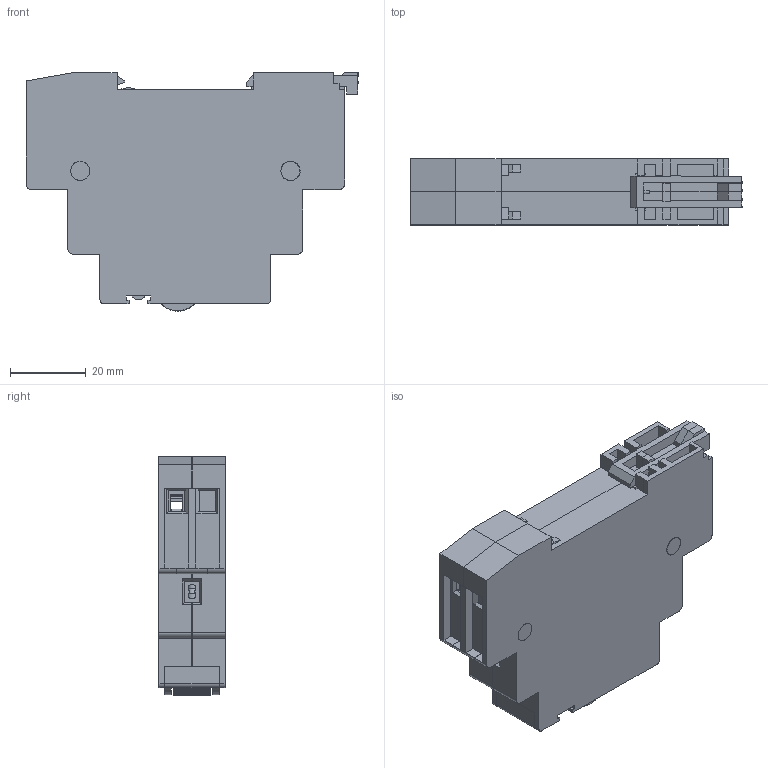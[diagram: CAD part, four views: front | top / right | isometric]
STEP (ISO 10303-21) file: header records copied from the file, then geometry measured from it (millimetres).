
FILE_DESCRIPTION(('STEP AP214'),'2;1');
FILE_NAME('2021.stp','2011-07-05T12:16:02',(''),(''),'2007.1.106','THINKDESIGN','');
FILE_SCHEMA(('AUTOMOTIVE_DESIGN'));
Products named in the file (1): None
Bounding box: 87.5 x 17.4 x 62.8 mm (x, y, z)
Surface area: 17523.1 mm2 (no closed solid volume)
Topology: 0 solids, 0 shells, 639 faces, 3592 edges, 3577 vertices
Faces by surface type: plane 517, cylinder 67, bspline 55
Full cylindrical faces by diameter (mm): 2.3 x4, 2.4 x2, 3 x4, 5.1 x2
Entity records: 37639 total; most frequent: CARTESIAN_POINT 11434, DIRECTION 4505, COMPOSITE_CURVE_SEGMENT 3582, TRIMMED_CURVE 3171, VECTOR 3049, LINE 3049, AXIS2_PLACEMENT_3D 728, STYLED_ITEM 647
